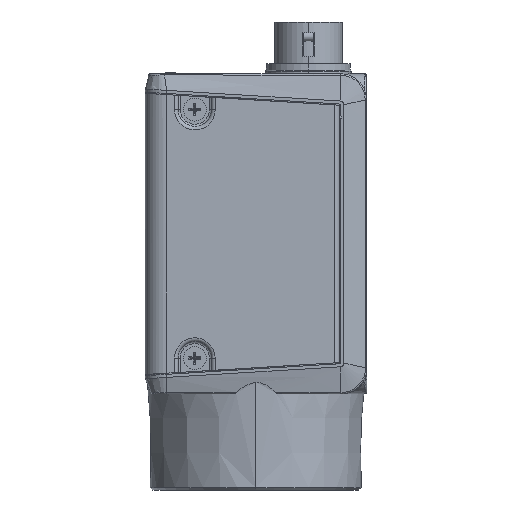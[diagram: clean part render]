
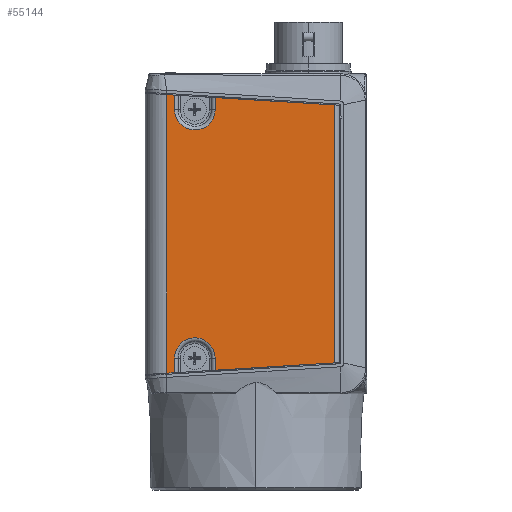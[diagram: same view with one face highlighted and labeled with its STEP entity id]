
A CAD part, left-side view. The second image highlights one B-rep face of the part: STEP entity #55144.
In plain terms, the highlighted planar face has unit normal (-1, 0, 0).
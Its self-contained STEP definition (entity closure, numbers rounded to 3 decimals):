
#8903=CARTESIAN_POINT('',(-14.5,-10.263,
13.575));
#8908=DIRECTION('',(0.,0.,1.));
#8909=VECTOR('',#8908,33.851);
#8910=CARTESIAN_POINT('',(-14.5,-10.263,
13.575));
#8911=LINE('',#8910,#8909);
#9040=CARTESIAN_POINT('',(-14.5,10.67,48.706));
#9239=DIRECTION('',(0.,0.,-1.));
#9240=VECTOR('',#9239,1.579);
#9241=CARTESIAN_POINT('',(-14.5,5.33,48.379));
#9242=LINE('',#9241,#9240);
#9263=CARTESIAN_POINT('',(-14.5,5.33,48.379));
#10185=CARTESIAN_POINT('',(-14.5,8.,14.2));
#10186=DIRECTION('',(-1.,0.,0.));
#10187=DIRECTION('',(0.,-1.,0.));
#10188=AXIS2_PLACEMENT_3D('',#10185,#10186,#10187);
#10193=CARTESIAN_POINT('',(-14.5,8.,14.2));
#10194=DIRECTION('',(-1.,0.,0.));
#10195=DIRECTION('',(0.,-0.999,0.054));
#10196=AXIS2_PLACEMENT_3D('',#10193,#10194,#10195);
#10201=DIRECTION('',(0.,0.998,-0.061));
#10202=VECTOR('',#10201,1.032);
#10203=CARTESIAN_POINT('',(-14.5,10.67,12.294));
#10204=LINE('',#10203,#10202);
#10208=DIRECTION('',(0.,-0.998,-0.061));
#10209=VECTOR('',#10208,1.032);
#10210=CARTESIAN_POINT('',(-14.5,11.7,
48.769));
#10211=LINE('',#10210,#10209);
#10215=CARTESIAN_POINT('',(-14.5,8.,46.8));
#10216=DIRECTION('',(-1.,0.,0.));
#10217=DIRECTION('',(0.,1.,0.));
#10218=AXIS2_PLACEMENT_3D('',#10215,#10216,#10217);
#10223=CARTESIAN_POINT('',(-14.5,8.,46.8));
#10224=DIRECTION('',(-1.,0.,0.));
#10225=DIRECTION('',(0.,0.999,-0.054));
#10226=AXIS2_PLACEMENT_3D('',#10223,#10224,#10225);
#10231=DIRECTION('',(0.,-0.998,-0.061));
#10232=VECTOR('',#10231,15.622);
#10233=CARTESIAN_POINT('',(-14.5,5.33,48.379));
#10234=LINE('',#10233,#10232);
#10238=DIRECTION('',(0.,0.998,-0.061));
#10239=VECTOR('',#10238,15.622);
#10240=CARTESIAN_POINT('',(-14.5,-10.263,
13.575));
#10241=LINE('',#10240,#10239);
#10245=DIRECTION('',(0.,0.,-1.));
#10246=VECTOR('',#10245,1.579);
#10247=CARTESIAN_POINT('',(-14.5,5.33,14.2));
#10248=LINE('',#10247,#10246);
#10327=CARTESIAN_POINT('',(-14.5,5.33,
12.621));
#10478=DIRECTION('',(0.,0.,1.));
#10479=VECTOR('',#10478,1.906);
#10480=CARTESIAN_POINT('',(-14.5,10.67,12.294));
#10481=LINE('',#10480,#10479);
#10502=CARTESIAN_POINT('',(-14.5,10.67,12.294));
#10530=CARTESIAN_POINT('',(-14.5,11.7,
48.769));
#10535=DIRECTION('',(0.,0.,-1.));
#10536=VECTOR('',#10535,36.537);
#10537=CARTESIAN_POINT('',(-14.5,11.7,
48.769));
#10538=LINE('',#10537,#10536);
#10542=CARTESIAN_POINT('',(-14.5,11.7,
12.231));
#16352=DIRECTION('',(0.,0.,1.));
#16353=VECTOR('',#16352,1.906);
#16354=CARTESIAN_POINT('',(-14.5,10.67,46.8));
#16355=LINE('',#16354,#16353);
#41837=VERTEX_POINT('',#10542);
#41840=VERTEX_POINT('',#10530);
#42059=VERTEX_POINT('',#9040);
#42090=VERTEX_POINT('',#9263);
#42091=CARTESIAN_POINT('',(-14.5,5.33,46.8));
#42092=VERTEX_POINT('',#42091);
#42093=CARTESIAN_POINT('',(-14.5,-10.263,
47.425));
#42094=VERTEX_POINT('',#42093);
#42115=VERTEX_POINT('',#8903);
#42148=VERTEX_POINT('',#10327);
#42185=VERTEX_POINT('',#10502);
#42186=CARTESIAN_POINT('',(-14.5,10.67,14.2));
#42187=VERTEX_POINT('',#42186);
#42188=CARTESIAN_POINT('',(-14.5,5.33,14.2));
#42189=VERTEX_POINT('',#42188);
#42190=CARTESIAN_POINT('',(-14.5,5.334,14.345));
#42191=VERTEX_POINT('',#42190);
#42192=CARTESIAN_POINT('',(-14.5,10.67,46.8));
#42193=VERTEX_POINT('',#42192);
#42194=CARTESIAN_POINT('',(-14.5,10.666,46.655));
#42195=VERTEX_POINT('',#42194);
#55113=CARTESIAN_POINT('',(-14.5,14.5,11.7));
#55114=DIRECTION('',(-1.,0.,0.));
#55115=DIRECTION('',(0.,0.,-1.));
#55116=AXIS2_PLACEMENT_3D('',#55113,#55114,#55115);
#55117=PLANE('',#55116);
#55119=ORIENTED_EDGE('',*,*,#55118,.F.);
#55121=ORIENTED_EDGE('',*,*,#55120,.T.);
#55123=ORIENTED_EDGE('',*,*,#55122,.T.);
#55125=ORIENTED_EDGE('',*,*,#55124,.F.);
#55127=ORIENTED_EDGE('',*,*,#55126,.T.);
#55129=ORIENTED_EDGE('',*,*,#55128,.F.);
#55130=ORIENTED_EDGE('',*,*,#53761,.T.);
#55132=ORIENTED_EDGE('',*,*,#55131,.F.);
#55134=ORIENTED_EDGE('',*,*,#55133,.T.);
#55136=ORIENTED_EDGE('',*,*,#55135,.T.);
#55137=ORIENTED_EDGE('',*,*,#53911,.F.);
#55138=ORIENTED_EDGE('',*,*,#53948,.T.);
#55139=ORIENTED_EDGE('',*,*,#53625,.F.);
#55141=ORIENTED_EDGE('',*,*,#55140,.T.);
#55142=EDGE_LOOP('',(#55119,#55121,#55123,#55125,#55127,#55129,#55130,#55132,
#55134,#55136,#55137,#55138,#55139,#55141));
#55143=FACE_OUTER_BOUND('',#55142,.F.);
#55144=ADVANCED_FACE('',(#55143),#55117,.T.);
#10189=CIRCLE('',#10188,2.67);
#10197=CIRCLE('',#10196,2.67);
#10219=CIRCLE('',#10218,2.67);
#10227=CIRCLE('',#10226,2.67);
#53625=EDGE_CURVE('',#42115,#42094,#8911,.T.);
#53761=EDGE_CURVE('',#41840,#42059,#10211,.T.);
#53911=EDGE_CURVE('',#42090,#42092,#9242,.T.);
#53948=EDGE_CURVE('',#42090,#42094,#10234,.T.);
#55118=EDGE_CURVE('',#42189,#42148,#10248,.T.);
#55120=EDGE_CURVE('',#42189,#42191,#10189,.T.);
#55122=EDGE_CURVE('',#42191,#42187,#10197,.T.);
#55124=EDGE_CURVE('',#42185,#42187,#10481,.T.);
#55126=EDGE_CURVE('',#42185,#41837,#10204,.T.);
#55128=EDGE_CURVE('',#41840,#41837,#10538,.T.);
#55131=EDGE_CURVE('',#42193,#42059,#16355,.T.);
#55133=EDGE_CURVE('',#42193,#42195,#10219,.T.);
#55135=EDGE_CURVE('',#42195,#42092,#10227,.T.);
#55140=EDGE_CURVE('',#42115,#42148,#10241,.T.);
